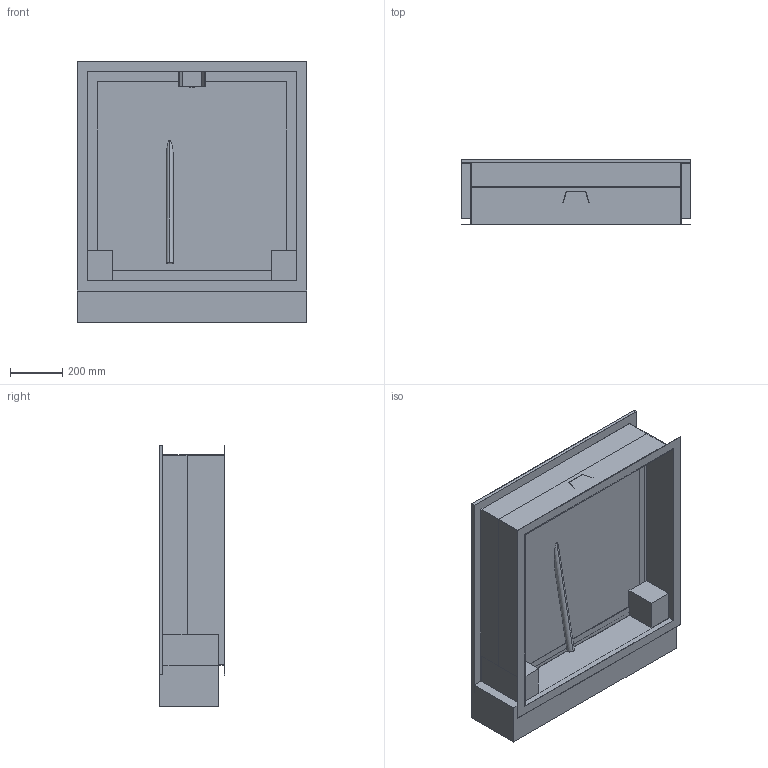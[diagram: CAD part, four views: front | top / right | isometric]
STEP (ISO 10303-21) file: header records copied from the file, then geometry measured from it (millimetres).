
FILE_DESCRIPTION((''),'2;1');
FILE_NAME('51496072','2020-06-16T10:52:13',('slc'),('HUBER SE'),'CREO PARAMETRIC BY PTC INC, 2019224','CREO PARAMETRIC BY PTC INC, 2019224','');
FILE_SCHEMA(('AUTOMOTIVE_DESIGN { 1 0 10303 214 1 1 1 1 }'));
Length unit declared in the file: millimetre
Products named in the file (1): 51496072
Bounding box: 878 x 250 x 1000 mm (x, y, z)
Volume: 100639723.3 mm3; surface area: 4327198.8 mm2
Topology: 1 solids, 1 shells, 87 faces, 228 edges, 150 vertices
Faces by surface type: plane 78, cylinder 9
Entity records: 3335 total; most frequent: CARTESIAN_POINT 527, ORIENTED_EDGE 456, DIRECTION 420, EDGE_CURVE 228, VECTOR 206, LINE 206, VERTEX_POINT 150, AXIS2_PLACEMENT_3D 107
